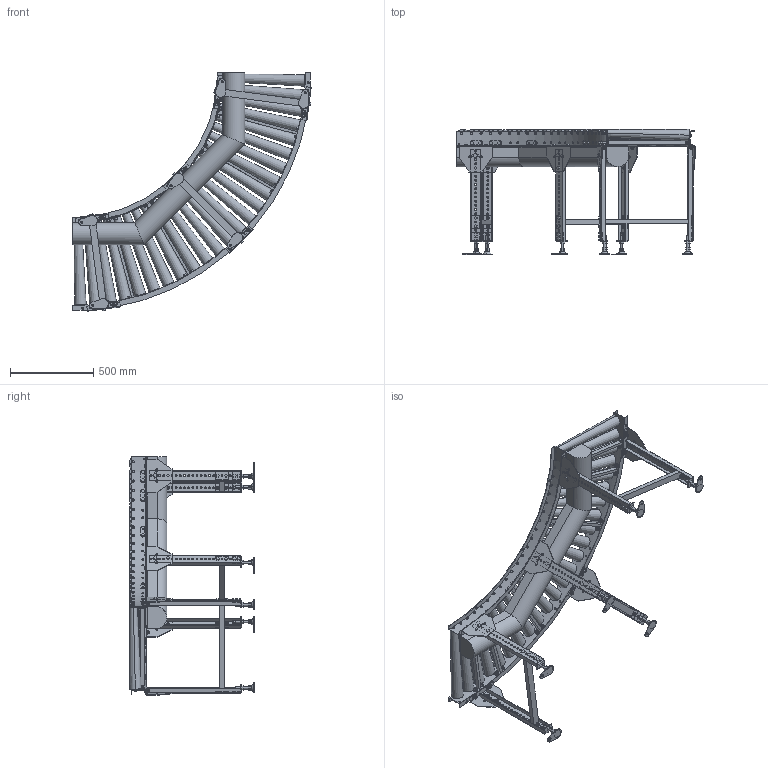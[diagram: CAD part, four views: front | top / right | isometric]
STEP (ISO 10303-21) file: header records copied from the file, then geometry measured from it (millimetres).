
FILE_DESCRIPTION (( 'STEP AP214' ), '1' );
FILE_NAME ('MCD50C9-90-500-75.STEP', '2022-08-01T07:04:28', ( '' ), ( '' ), 'SwSTEP 2.0', 'SolidWorks 2017', '' );
FILE_SCHEMA (( 'AUTOMOTIVE_DESIGN' ));
Length unit declared in the file: millimetre
Products named in the file (1): MCD50C9-90-500-75
Bounding box: 1431.48 x 750 x 1431.48 mm (x, y, z)
Volume: 60500137.7 mm3; surface area: 5839568.2 mm2
Topology: 28 solids, 58 shells, 3903 faces, 9300 edges, 5866 vertices
Faces by surface type: plane 2752, cylinder 1091, cone 60
Entity records: 168476 total; most frequent: CARTESIAN_POINT 32670, DIRECTION 19596, ORIENTED_EDGE 18600, EDGE_CURVE 9300, AXIS2_PLACEMENT_3D 6826, VECTOR 5944, LINE 5944, VERTEX_POINT 5866
